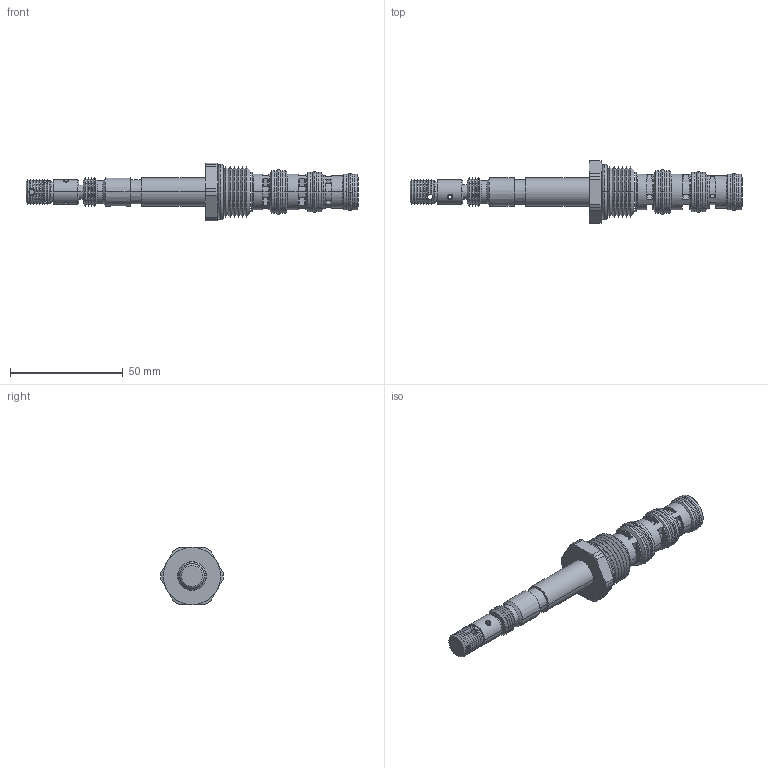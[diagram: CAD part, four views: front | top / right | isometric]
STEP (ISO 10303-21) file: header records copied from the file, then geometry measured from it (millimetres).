
FILE_DESCRIPTION((''),'2;1');
FILE_NAME('U:\Solid model CD\Solid model full\Solenoid\STEP\DGS4C0M-3D Full.stp','2008-06-23T08:31:24',('Dan'),(''),'Autodesk Inventor 9','Autodesk Inventor 9','');
FILE_SCHEMA(('AUTOMOTIVE_DESIGN { 1 0 10303 214 1 1 1 1 }'));
Length unit declared in the file: inch
Products named in the file (14): DGS4C0M-3D Full; DGS4C0M-3D Full1; DGS4C0M-3D Full2; DGS4C0M-3D Full3; DGS4C0M-3D Full4; DGS4C0M-3D Full5; DGS4C0M-3D Full6; DGS4C0M-3D Full7; DGS4C0M-3D Full8; DGS4C0M-3D Full9; DGS4C0M-3D Full10; DGS4C0M-3D Full11; DGS4C0M-3D Full12; DGS4C0M-3D Full13
Assembly tree (13 placements, depth 2):
  DGS4C0M-3D Full
    DGS4C0M-3D Full1
    DGS4C0M-3D Full2
    DGS4C0M-3D Full3
    DGS4C0M-3D Full4
    DGS4C0M-3D Full5
    DGS4C0M-3D Full6
    DGS4C0M-3D Full7
    DGS4C0M-3D Full8
    DGS4C0M-3D Full9
    DGS4C0M-3D Full10
    DGS4C0M-3D Full11
    DGS4C0M-3D Full12
    DGS4C0M-3D Full13
Bounding box: 147.08 x 27.76 x 25.4 mm (x, y, z)
Volume: 24852 mm3; surface area: 13321.5 mm2
Topology: 14 solids, 14 shells, 491 faces, 1119 edges, 665 vertices
Faces by surface type: cone 260, cylinder 114, plane 61, torus 52, bspline 4
Entity records: 15202 total; most frequent: CARTESIAN_POINT 3708, DIRECTION 2548, ORIENTED_EDGE 2238, EDGE_CURVE 1119, AXIS2_PLACEMENT_3D 1097, VERTEX_POINT 665, CIRCLE 583, EDGE_LOOP 526
